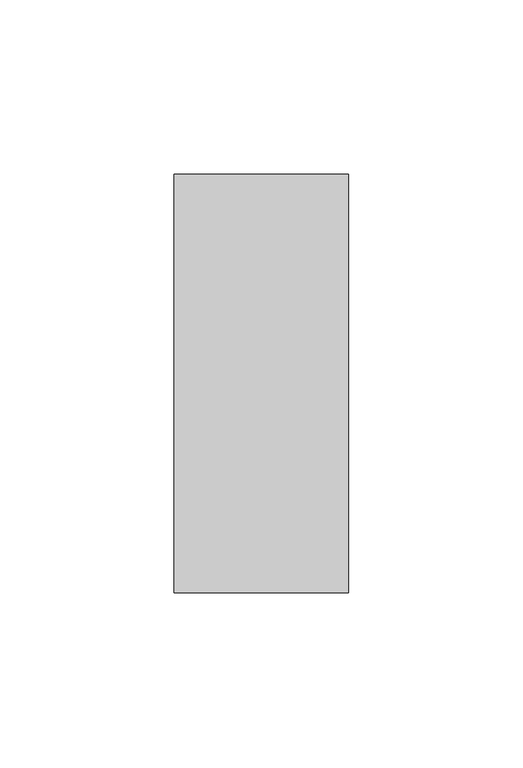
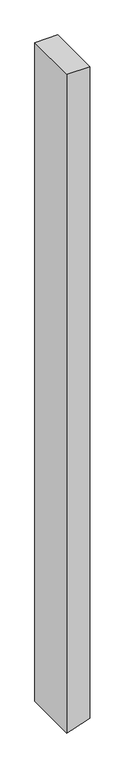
"""IFC4 building model written with IfcOpenShell, lengths in millimetres: member geometry, Прямоугольный импост : 50х120 мм."""

from ifc_helpers import new_model, si_unit, frame, origin, place, context, project, spatial, polyline, outline, extrude, source, transform, mapped, element, save


def member_7c7a4136(model_context):
    return source(origin(), model_context, "Body", "SweptSolid", [
        extrude(outline(polyline([(0.0, 25.0), (0.0, -25.0), (-1515.2662259, -25.0), (-1512.1635189, -15.4508497), (-1499.0202411, 25.0), (0.0, 25.0)])), frame((0.0, -60.0, 0.0), z_axis=(0.0, 1.0, 0.0), x_axis=(0.0, 0.0, 1.0)), (0.0, 0.0, 1.0), 120.0),
    ])


if __name__ == "__main__":
    model = new_model("IFC4")
    model_context = context("Model", 3, world=origin())
    ifc_project = project(units=[si_unit("LENGTHUNIT", "METRE", prefix="MILLI")], contexts=[model_context])
    site = spatial("IfcSite", under=ifc_project)
    building = spatial("IfcBuilding", under=site)
    placement = place(None, origin())
    member_shape = member_7c7a4136(model_context)
    element("IfcMember", 1, ObjectType="Прямоугольный импост : 50х120 мм", at=placement, inside=building, context=model_context, shape_type="MappedRepresentation", body=[
        mapped(member_shape, transform((0.0, 0.0, 0.0), x_axis=(1.0, 0.0, 0.0), y_axis=(0.0, 1.0, 0.0), z_axis=(0.0, 0.0, 1.0))),
    ])
    save(model, "model.ifc")
